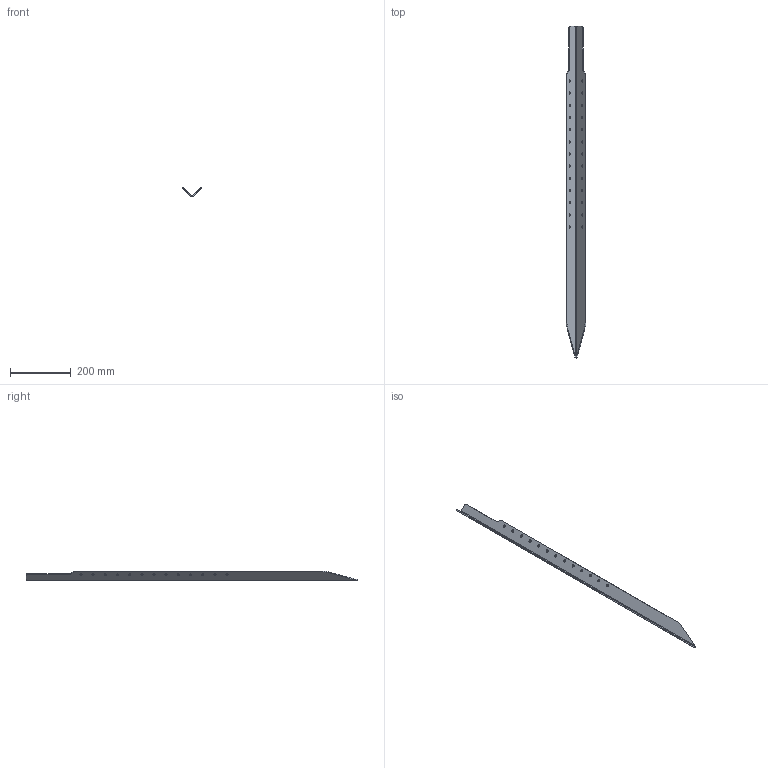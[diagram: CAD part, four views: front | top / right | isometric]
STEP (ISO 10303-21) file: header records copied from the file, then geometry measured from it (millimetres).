
FILE_DESCRIPTION (( 'STEP AP214' ), '1' );
FILE_NAME ('MONO_038-p202_02 (Option 1 - Folded).STEP', '2026-03-24T00:18:59', ( '' ), ( '' ), 'SwSTEP 2.0', 'SolidWorks 2024', '' );
FILE_SCHEMA (( 'AUTOMOTIVE_DESIGN' ));
Length unit declared in the file: millimetre
Products named in the file (1): MONO_038-p202_02 (Option 1 - Folded)
Bounding box: 63.64 x 1090.72 x 31.45 mm (x, y, z)
Volume: 250825.1 mm3; surface area: 175963.6 mm2
Topology: 1 solids, 1 shells, 52 faces, 168 edges, 118 vertices
Faces by surface type: cylinder 36, plane 15, bspline 1
Full cylindrical faces by diameter (mm): 8 x26
Entity records: 1692 total; most frequent: CARTESIAN_POINT 294, DIRECTION 288, ORIENTED_EDGE 232, EDGE_LOOP 130, AXIS2_PLACEMENT_3D 122, EDGE_CURVE 116, VERTEX_POINT 92, FACE_OUTER_BOUND 78
